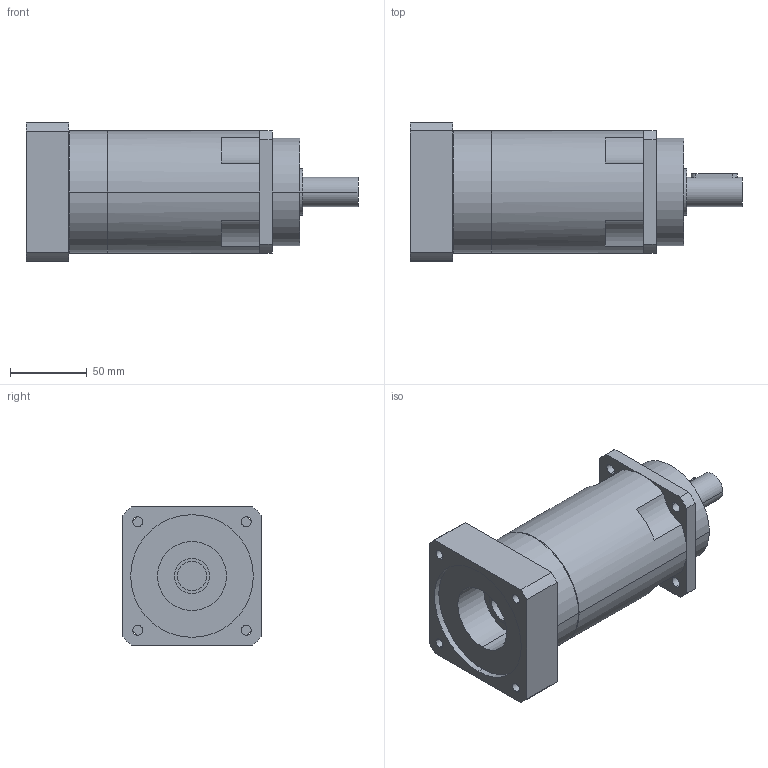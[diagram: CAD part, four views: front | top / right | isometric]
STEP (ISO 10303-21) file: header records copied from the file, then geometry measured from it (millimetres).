
FILE_DESCRIPTION(('CoCreate Modeling STEP Export'),'2;1');
FILE_NAME('GPR100_ig-48-64-80-100-120-144-180-216_19_B5_19_P28.stp','2014-08-26T11:56:31',(''),(''),'CoCreate Modeling STEP processor for AP214 (Solid Model)','CoCreate Modeling 16.00C 25-Feb-2009 (C) Parametric Technology GmbH','');
FILE_SCHEMA(('AUTOMOTIVE_DESIGN { 1 0 10303 214 1 1 1 1 }'));
Length unit declared in the file: millimetre
Products named in the file (2): GPR100_ig-48-64-80-100-120-144-180-216_19_B5_19_P28
Assembly tree (1 placements, depth 2):
  GPR100_ig-48-64-80-100-120-144-180-216_19_B5_19_P28
    GPR100_ig-48-64-80-100-120-144-180-216_19_B5_19_P28
Bounding box: 216.4 x 90 x 90 mm (x, y, z)
Volume: 903024.2 mm3; surface area: 79202.8 mm2
Topology: 1 solids, 1 shells, 86 faces, 241 edges, 165 vertices
Faces by surface type: cylinder 50, plane 30, cone 6
Entity records: 2547 total; most frequent: ORIENTED_EDGE 478, CARTESIAN_POINT 464, DIRECTION 376, EDGE_CURVE 239, VERTEX_POINT 165, AXIS2_PLACEMENT_3D 141, EDGE_LOOP 112, VECTOR 94
